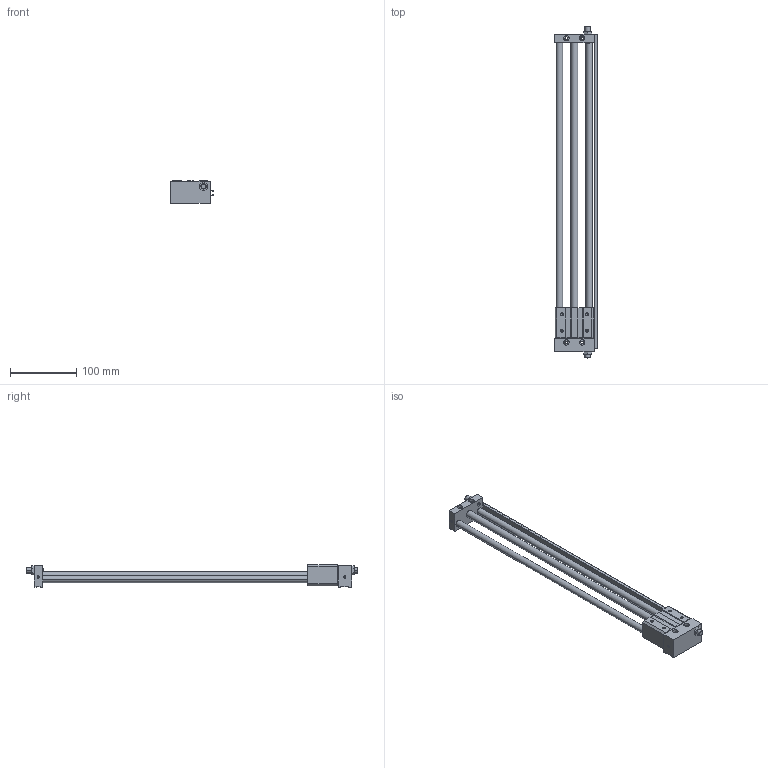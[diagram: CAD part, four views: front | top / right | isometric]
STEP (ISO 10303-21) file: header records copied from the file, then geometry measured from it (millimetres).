
FILE_DESCRIPTION((''),'2;1');
FILE_NAME('C:\Documents and Settings\Administrator\桌面\GYS\GYS10\GYSR10X400.stp','2012-03-05T10:10:43',('Administrator'),(''),'Autodesk Inventor 8','Autodesk Inventor 8','');
FILE_SCHEMA(('AUTOMOTIVE_DESIGN { 1 0 10303 214 1 1 1 1 }'));
Length unit declared in the file: millimetre
Products named in the file (3): GYSR10X400; GYS10X400; GYS10160X400
Assembly tree (2 placements, depth 2):
  GYSR10X400
    GYS10X400
    GYS10160X400
Bounding box: 65 x 502 x 34 mm (x, y, z)
Volume: 253491.4 mm3; surface area: 85632.4 mm2
Topology: 2 solids, 2 shells, 193 faces, 462 edges, 296 vertices
Faces by surface type: plane 97, cylinder 58, cone 32, bspline 6
Entity records: 5756 total; most frequent: CARTESIAN_POINT 1030, DIRECTION 1006, ORIENTED_EDGE 924, EDGE_CURVE 462, AXIS2_PLACEMENT_3D 352, VECTOR 302, LINE 302, VERTEX_POINT 296
